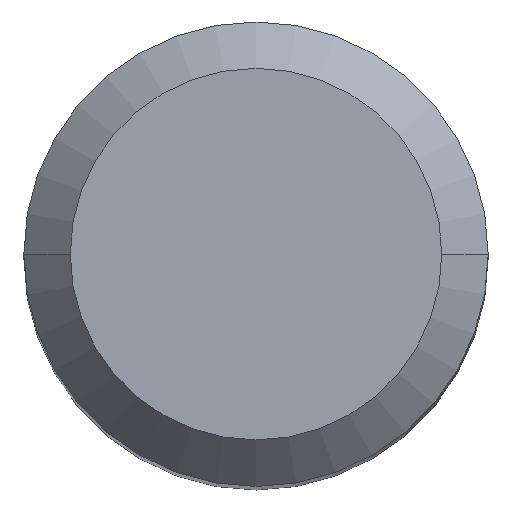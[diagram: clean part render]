
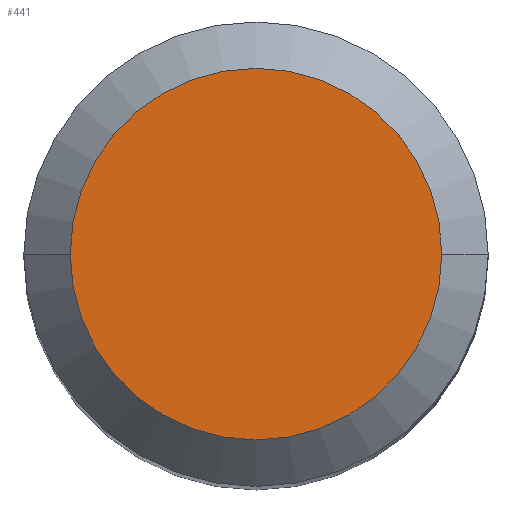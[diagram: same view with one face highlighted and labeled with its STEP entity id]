
A CAD part, top view. The second image highlights one B-rep face of the part: STEP entity #441.
In plain terms, the highlighted planar face has unit normal (0, 0, 1).
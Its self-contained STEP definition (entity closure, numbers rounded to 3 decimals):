
#10 = DIRECTION ( 'NONE',  ( 1., 0., 0. ) ) ;
#30 = ORIENTED_EDGE ( 'NONE', *, *, #161, .F. ) ;
#56 = DIRECTION ( 'NONE',  ( 0., 0., -1. ) ) ;
#99 = EDGE_LOOP ( 'NONE', ( #30, #545 ) ) ;
#161 = EDGE_CURVE ( 'NONE', #476, #579, #164, .T. ) ;
#164 = CIRCLE ( 'NONE', #455, 3.2 ) ;
#165 = CARTESIAN_POINT ( 'NONE',  ( 0., 0., 0. ) ) ;
#186 = DIRECTION ( 'NONE',  ( -1., 0., 0. ) ) ;
#197 = DIRECTION ( 'NONE',  ( 0., 0., -1. ) ) ;
#210 = AXIS2_PLACEMENT_3D ( 'NONE', #165, #197, #442 ) ;
#243 = DIRECTION ( 'NONE',  ( 0., 0., 1. ) ) ;
#279 = AXIS2_PLACEMENT_3D ( 'NONE', #331, #243, #10 ) ;
#313 = CIRCLE ( 'NONE', #210, 3.2 ) ;
#331 = CARTESIAN_POINT ( 'NONE',  ( 0., 3.2, 0. ) ) ;
#342 = FACE_OUTER_BOUND ( 'NONE', #99, .T. ) ;
#372 = CARTESIAN_POINT ( 'NONE',  ( 3.2, 0., 0. ) ) ;
#410 = EDGE_CURVE ( 'NONE', #579, #476, #313, .T. ) ;
#441 = ADVANCED_FACE ( 'NONE', ( #342 ), #550, .T. ) ;
#442 = DIRECTION ( 'NONE',  ( -1., 0., 0. ) ) ;
#455 = AXIS2_PLACEMENT_3D ( 'NONE', #471, #56, #186 ) ;
#471 = CARTESIAN_POINT ( 'NONE',  ( 0., 0., 0. ) ) ;
#476 = VERTEX_POINT ( 'NONE', #562 ) ;
#545 = ORIENTED_EDGE ( 'NONE', *, *, #410, .F. ) ;
#550 = PLANE ( 'NONE',  #279 ) ;
#562 = CARTESIAN_POINT ( 'NONE',  ( -3.2, 0., 0. ) ) ;
#579 = VERTEX_POINT ( 'NONE', #372 ) ;
